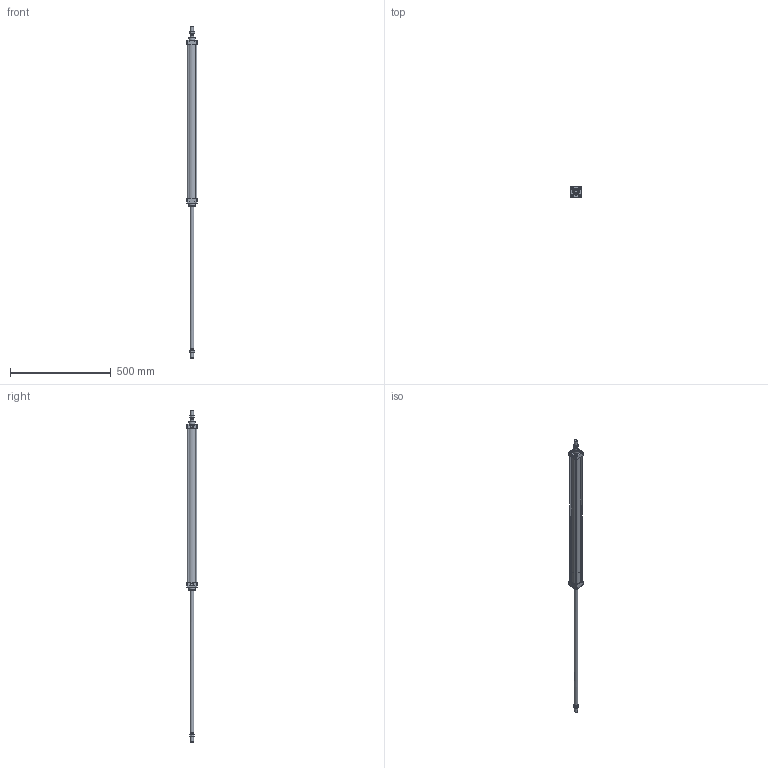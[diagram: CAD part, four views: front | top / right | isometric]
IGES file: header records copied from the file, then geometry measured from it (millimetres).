
Global section: file name: 1303_040_0700_02A; native system: Autodesk Inventor 2014; preprocessor: unknown; author: A. Manieri; date: 20161123.144327; units: millimetre
Bounding box: 52 x 52 x 1650 mm (x, y, z)
Volume: 941114.1 mm3; surface area: 397807.9 mm2
Topology: 10 solids, 10 shells, 189 faces, 471 edges, 314 vertices
Faces by surface type: bspline 189
